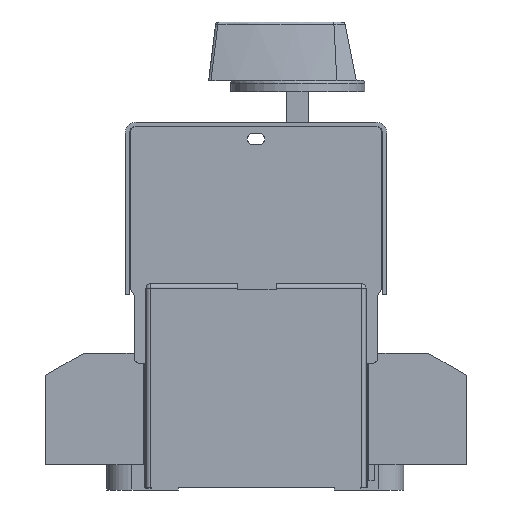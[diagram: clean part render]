
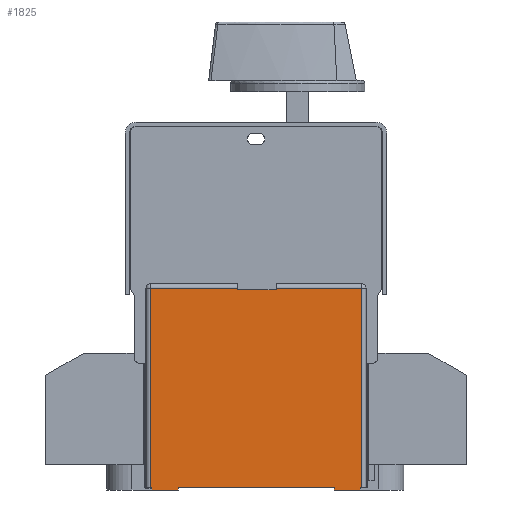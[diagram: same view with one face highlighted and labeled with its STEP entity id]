
A CAD part, left-side view. The second image highlights one B-rep face of the part: STEP entity #1825.
In plain terms, the highlighted planar face has unit normal (-1, 0, 0).
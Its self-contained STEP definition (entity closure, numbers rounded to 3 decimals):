
#1825=ADVANCED_FACE('',(#3958),#3105,.F.);
#3105=PLANE('',#25755);
#3958=FACE_OUTER_BOUND('',#5172,.T.);
#5172=EDGE_LOOP('',(#7243,#7244,#7245,#7246,#7247,#7248,#7249,#7250,#7251,
#7252,#7253,#7254,#7255,#7256,#7257,#7258));
#7243=ORIENTED_EDGE('',*,*,#16819,.F.);
#7244=ORIENTED_EDGE('',*,*,#16820,.T.);
#7245=ORIENTED_EDGE('',*,*,#16821,.T.);
#7246=ORIENTED_EDGE('',*,*,#16606,.F.);
#7247=ORIENTED_EDGE('',*,*,#16822,.T.);
#7248=ORIENTED_EDGE('',*,*,#16823,.T.);
#7249=ORIENTED_EDGE('',*,*,#16817,.T.);
#7250=ORIENTED_EDGE('',*,*,#16703,.T.);
#7251=ORIENTED_EDGE('',*,*,#16469,.F.);
#7252=ORIENTED_EDGE('',*,*,#16824,.F.);
#7253=ORIENTED_EDGE('',*,*,#16825,.T.);
#7254=ORIENTED_EDGE('',*,*,#16609,.T.);
#7255=ORIENTED_EDGE('',*,*,#16826,.F.);
#7256=ORIENTED_EDGE('',*,*,#16827,.F.);
#7257=ORIENTED_EDGE('',*,*,#16485,.T.);
#7258=ORIENTED_EDGE('',*,*,#16715,.T.);
#14058=VERTEX_POINT('',#34669);
#14059=VERTEX_POINT('',#34671);
#14072=VERTEX_POINT('',#34702);
#14073=VERTEX_POINT('',#34704);
#14172=VERTEX_POINT('',#34952);
#14174=VERTEX_POINT('',#34956);
#14177=VERTEX_POINT('',#34963);
#14178=VERTEX_POINT('',#34965);
#14257=VERTEX_POINT('',#35152);
#14265=VERTEX_POINT('',#35174);
#14328=VERTEX_POINT('',#35372);
#14329=VERTEX_POINT('',#35376);
#14330=VERTEX_POINT('',#35378);
#14331=VERTEX_POINT('',#35381);
#14332=VERTEX_POINT('',#35384);
#14333=VERTEX_POINT('',#35387);
#16469=EDGE_CURVE('',#14058,#14059,#20131,.T.);
#16485=EDGE_CURVE('',#14073,#14072,#20146,.T.);
#16606=EDGE_CURVE('',#14174,#14172,#20254,.T.);
#16609=EDGE_CURVE('',#14178,#14177,#20257,.T.);
#16703=EDGE_CURVE('',#14257,#14059,#20330,.T.);
#16715=EDGE_CURVE('',#14072,#14265,#20338,.T.);
#16817=EDGE_CURVE('',#14328,#14257,#20426,.T.);
#16819=EDGE_CURVE('',#14329,#14265,#20427,.T.);
#16820=EDGE_CURVE('',#14329,#14330,#20428,.T.);
#16821=EDGE_CURVE('',#14330,#14172,#20429,.T.);
#16822=EDGE_CURVE('',#14174,#14331,#20430,.T.);
#16823=EDGE_CURVE('',#14331,#14328,#20431,.T.);
#16824=EDGE_CURVE('',#14332,#14058,#20432,.T.);
#16825=EDGE_CURVE('',#14332,#14178,#20433,.T.);
#16826=EDGE_CURVE('',#14333,#14177,#20434,.T.);
#16827=EDGE_CURVE('',#14073,#14333,#20435,.T.);
#20131=LINE('',#34670,#22900);
#20146=LINE('',#34703,#22915);
#20254=LINE('',#34957,#23023);
#20257=LINE('',#34964,#23026);
#20330=LINE('',#35151,#23099);
#20338=LINE('',#35175,#23107);
#20426=LINE('',#35371,#23195);
#20427=LINE('',#35375,#23196);
#20428=LINE('',#35377,#23197);
#20429=LINE('',#35379,#23198);
#20430=LINE('',#35380,#23199);
#20431=LINE('',#35382,#23200);
#20432=LINE('',#35383,#23201);
#20433=LINE('',#35385,#23202);
#20434=LINE('',#35386,#23203);
#20435=LINE('',#35388,#23204);
#22900=VECTOR('',#27796,1.);
#22915=VECTOR('',#27819,1.);
#23023=VECTOR('',#27999,1.);
#23026=VECTOR('',#28004,1.);
#23099=VECTOR('',#28147,1.);
#23107=VECTOR('',#28169,1.);
#23195=VECTOR('',#28349,1.);
#23196=VECTOR('',#28354,1.);
#23197=VECTOR('',#28355,1.);
#23198=VECTOR('',#28356,1.);
#23199=VECTOR('',#28357,1.);
#23200=VECTOR('',#28358,1.);
#23201=VECTOR('',#28359,1.);
#23202=VECTOR('',#28360,1.);
#23203=VECTOR('',#28361,1.);
#23204=VECTOR('',#28362,1.);
#25755=AXIS2_PLACEMENT_3D('',#35389,#28363,#28364);
#27796=DIRECTION('',(0.,0.,1.));
#27819=DIRECTION('',(0.,0.,1.));
#27999=DIRECTION('',(0.,-1.,0.));
#28004=DIRECTION('',(0.,-1.,0.));
#28147=DIRECTION('',(0.,-1.,0.));
#28169=DIRECTION('',(0.,-1.,0.));
#28349=DIRECTION('',(0.,0.,-1.));
#28354=DIRECTION('',(0.,0.,-1.));
#28355=DIRECTION('',(0.,1.,0.));
#28356=DIRECTION('',(0.,0.,-1.));
#28357=DIRECTION('',(0.,0.,1.));
#28358=DIRECTION('',(0.,1.,0.));
#28359=DIRECTION('',(0.,1.,0.));
#28360=DIRECTION('',(0.,0.,1.));
#28361=DIRECTION('',(0.,0.,1.));
#28362=DIRECTION('',(0.,1.,0.));
#28363=DIRECTION('',(1.,0.,0.));
#28364=DIRECTION('',(0.,0.,-1.));
#34669=CARTESIAN_POINT('',(-69.,12.765,-4.9));
#34670=CARTESIAN_POINT('',(-69.,12.765,-5.9));
#34671=CARTESIAN_POINT('',(-69.,12.765,-3.9));
#34702=CARTESIAN_POINT('',(-69.,-62.235,-3.9));
#34703=CARTESIAN_POINT('',(-69.,-62.235,-5.9));
#34704=CARTESIAN_POINT('',(-69.,-62.235,-4.9));
#34952=CARTESIAN_POINT('',(-69.,-31.985,67.));
#34956=CARTESIAN_POINT('',(-69.,-17.985,67.));
#34957=CARTESIAN_POINT('',(-69.,12.765,67.));
#34963=CARTESIAN_POINT('',(-69.,-52.735,-3.9));
#34964=CARTESIAN_POINT('',(-69.,-62.235,-3.9));
#34965=CARTESIAN_POINT('',(-69.,3.265,-3.9));
#35151=CARTESIAN_POINT('',(-69.,-62.235,-3.9));
#35152=CARTESIAN_POINT('',(-69.,13.265,-3.9));
#35174=CARTESIAN_POINT('',(-69.,-62.735,-3.9));
#35175=CARTESIAN_POINT('',(-69.,-62.235,-3.9));
#35371=CARTESIAN_POINT('',(-69.,13.265,69.1));
#35372=CARTESIAN_POINT('',(-69.,13.265,67.6));
#35375=CARTESIAN_POINT('',(-69.,-62.735,69.1));
#35376=CARTESIAN_POINT('',(-69.,-62.735,67.6));
#35377=CARTESIAN_POINT('',(-69.,13.265,67.6));
#35378=CARTESIAN_POINT('',(-69.,-31.985,67.6));
#35379=CARTESIAN_POINT('',(-69.,-31.985,69.1));
#35380=CARTESIAN_POINT('',(-69.,-17.985,69.1));
#35381=CARTESIAN_POINT('',(-69.,-17.985,67.6));
#35382=CARTESIAN_POINT('',(-69.,13.265,67.6));
#35383=CARTESIAN_POINT('',(-69.,3.265,-4.9));
#35384=CARTESIAN_POINT('',(-69.,3.265,-4.9));
#35385=CARTESIAN_POINT('',(-69.,3.265,-5.9));
#35386=CARTESIAN_POINT('',(-69.,-52.735,-5.9));
#35387=CARTESIAN_POINT('',(-69.,-52.735,-4.9));
#35388=CARTESIAN_POINT('',(-69.,-62.235,-4.9));
#35389=CARTESIAN_POINT('',(-69.,-62.235,69.1));
